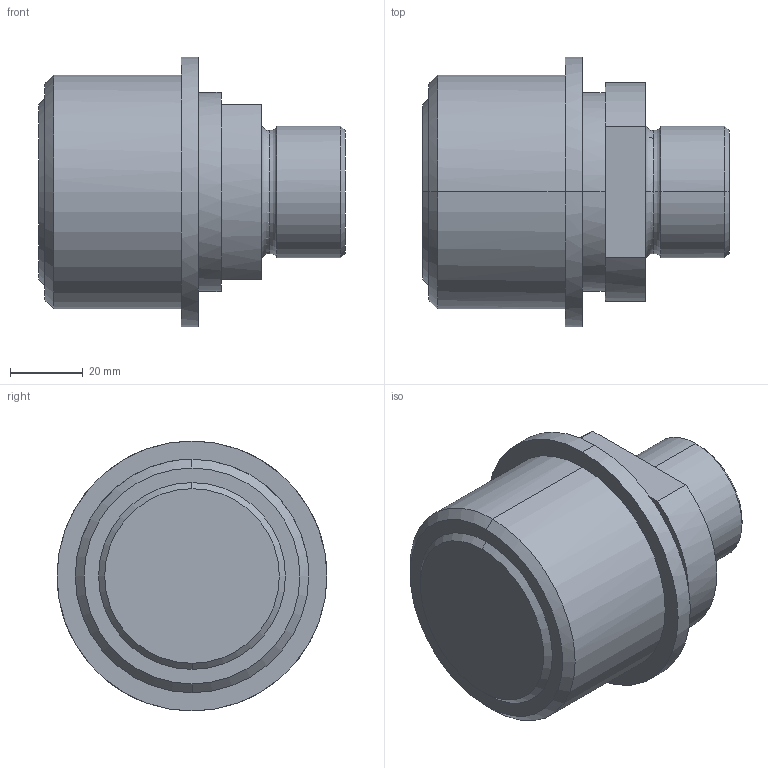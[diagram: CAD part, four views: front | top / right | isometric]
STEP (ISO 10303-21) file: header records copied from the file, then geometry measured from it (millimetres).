
FILE_DESCRIPTION(('CATIA V5 STEP Exchange'),'2;1');
FILE_NAME('C:\Users\Utente\Desktop\IO LAVORO\3D X SITO CF\X SITO\PLASTICA\AGS\AGS3422M36.stp','2021-02-21T19:46:11+00:00',('none'),('none'),'CATIA Version 5 Release 20 GA (IN-10)','CATIA V5 STEP AP203','none');
FILE_SCHEMA(('CONFIG_CONTROL_DESIGN'));
Length unit declared in the file: millimetre
Products named in the file (1): AGS3422M36
Bounding box: 84 x 74 x 74 mm (x, y, z)
Volume: 208541.5 mm3; surface area: 23295.1 mm2
Topology: 1 solids, 1 shells, 32 faces, 90 edges, 64 vertices
Faces by surface type: plane 12, cylinder 10, cone 6, torus 4
Entity records: 1204 total; most frequent: CARTESIAN_POINT 349, ORIENTED_EDGE 180, DIRECTION 139, EDGE_CURVE 90, AXIS2_PLACEMENT_3D 82, VERTEX_POINT 64, CIRCLE 49, EDGE_LOOP 36
